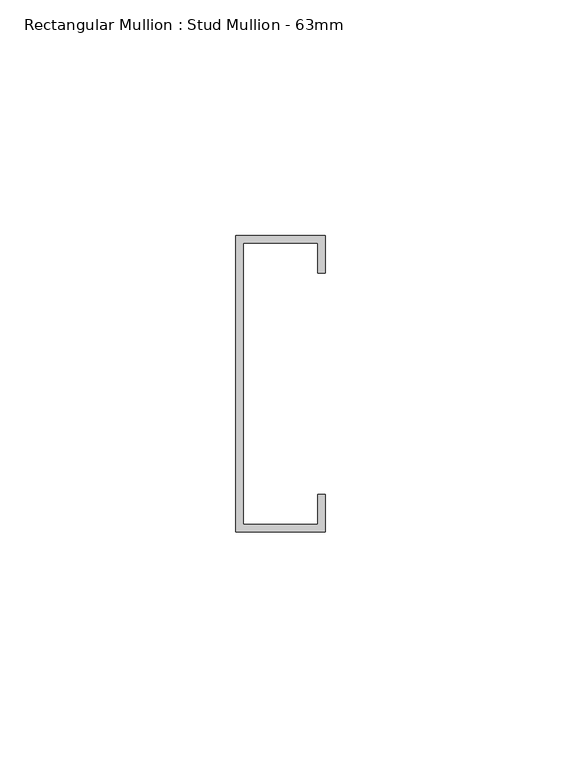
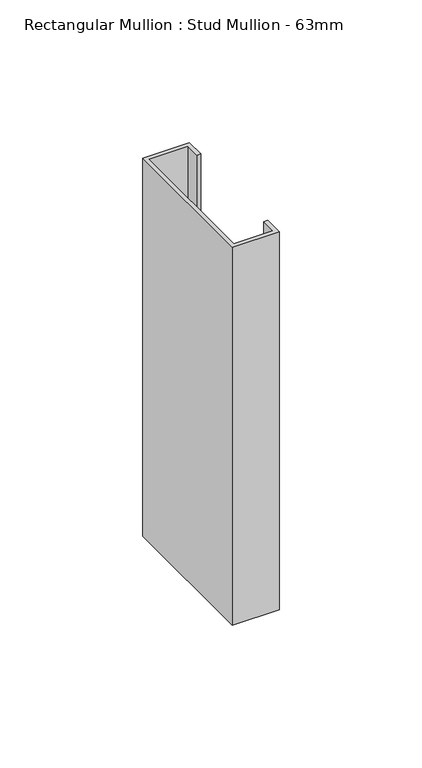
"""IFC4 building model written with IfcOpenShell, lengths in millimetres: member geometry, Rectangular Mullion : Stud Mullion - 63mm."""

from ifc_helpers import new_model, si_unit, frame, origin, place, context, project, spatial, polyline, outline, extrude, source, transform, mapped, element, save


def rectangular_mullion_stud_mullion_63mm_b2ef130e(model_context):
    return source(origin(), model_context, "Body", "SweptSolid", [
        extrude(outline(polyline([(0.0, 23.5), (-1.6, 23.5), (-1.6, 29.9), (-17.4, 29.9), (-17.4, -29.9), (-1.6, -29.9), (-1.6, -23.5), (0.0, -23.5), (0.0, -31.5), (-19.0, -31.5), (-19.0, 31.5), (0.0, 31.5), (0.0, 23.5)])), frame((0.0, 0.0, -161.9999997), z_axis=(0.0, 0.0, 1.0), x_axis=(1.0, 0.0, 0.0)), (0.0, 0.0, 1.0), 161.9999997),
    ])


if __name__ == "__main__":
    model = new_model("IFC4")
    model_context = context("Model", 3, world=origin())
    ifc_project = project(units=[si_unit("LENGTHUNIT", "METRE", prefix="MILLI")], contexts=[model_context])
    site = spatial("IfcSite", under=ifc_project)
    building = spatial("IfcBuilding", under=site)
    placement = place(None, origin())
    rectangular_mullion_stud_mullion_63mm_shape = rectangular_mullion_stud_mullion_63mm_b2ef130e(model_context)
    element("IfcMember", 1, ObjectType="Rectangular Mullion : Stud Mullion - 63mm", at=placement, inside=building, context=model_context, shape_type="MappedRepresentation", body=[
        mapped(rectangular_mullion_stud_mullion_63mm_shape, transform((0.0, 0.0, 0.0), x_axis=(1.0, 0.0, 0.0), y_axis=(0.0, 1.0, 0.0), z_axis=(0.0, 0.0, 1.0))),
    ])
    save(model, "model.ifc")
